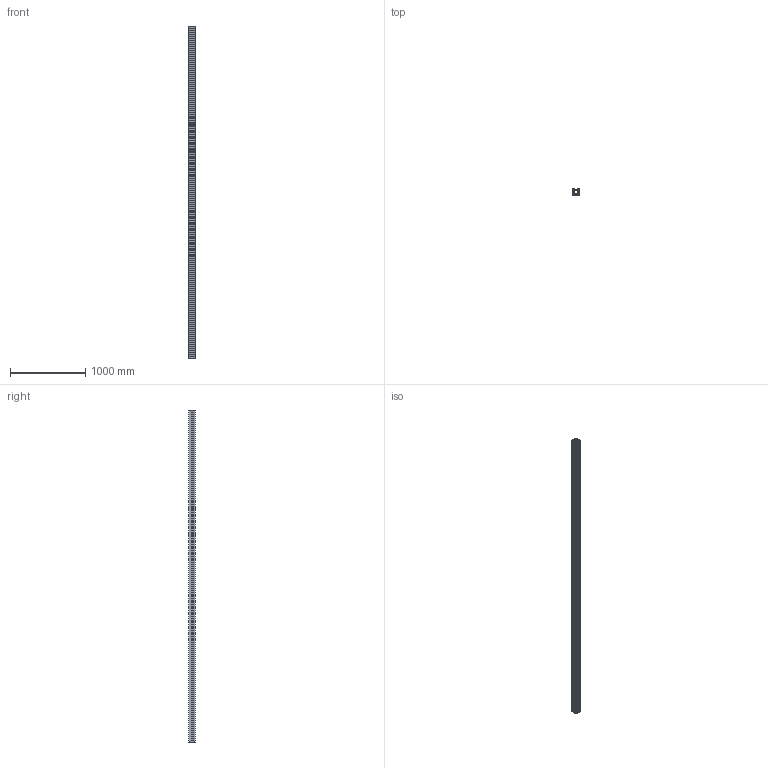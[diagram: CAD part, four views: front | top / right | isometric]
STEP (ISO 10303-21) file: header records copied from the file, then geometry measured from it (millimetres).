
FILE_DESCRIPTION (( 'STEP AP203' ), '1' );
FILE_NAME ('_-_MLF 4 4398 mm lang.step', '2005-09-01T12:47:09', ( ' ' ), ( ' ' ), 'SwSTEP 2.0', 'SolidWorks 2005187', '' );
FILE_SCHEMA (( 'CONFIG_CONTROL_DESIGN' ));
Length unit declared in the file: millimetre
Products named in the file (1): _-_MLF 4  4398 mm lang
Bounding box: 87.59 x 80 x 4398 mm (x, y, z)
Volume: 10133934.4 mm3; surface area: 5430346.5 mm2
Topology: 1 solids, 1 shells, 248 faces, 762 edges, 500 vertices
Faces by surface type: plane 174, cylinder 74
Entity records: 8575 total; most frequent: ORIENTED_EDGE 1524, CARTESIAN_POINT 1511, DIRECTION 1408, EDGE_CURVE 762, VECTOR 614, LINE 614, VERTEX_POINT 500, AXIS2_PLACEMENT_3D 397
